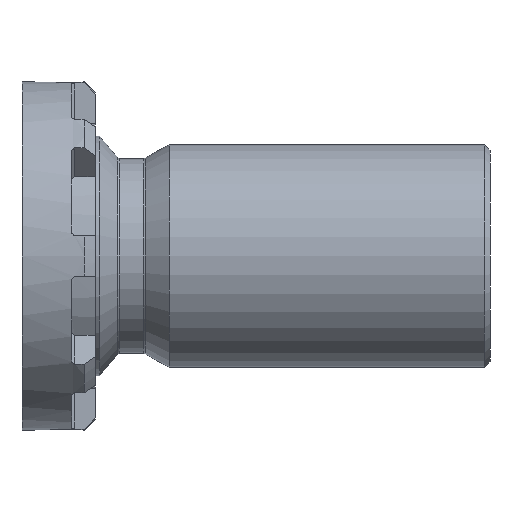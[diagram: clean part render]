
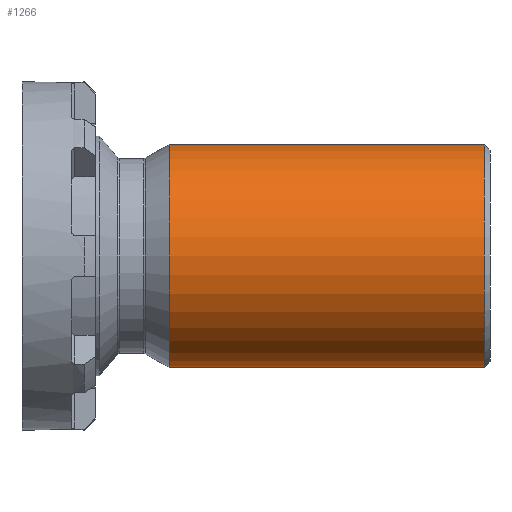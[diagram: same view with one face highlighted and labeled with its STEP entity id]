
A CAD part, left-side view. The second image highlights one B-rep face of the part: STEP entity #1266.
In plain terms, the highlighted cylindrical face has radius 4 mm (diameter 8 mm), a full revolution.
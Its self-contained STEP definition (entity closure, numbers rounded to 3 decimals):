
#36=CYLINDRICAL_SURFACE('',#1434,4.);
#84=CIRCLE('',#1431,4.);
#85=CIRCLE('',#1432,4.);
#86=CIRCLE('',#1435,4.);
#173=FACE_OUTER_BOUND('',#242,.T.);
#242=EDGE_LOOP('',(#1069,#1070,#1071,#1072,#1073));
#333=LINE('',#2246,#420);
#420=VECTOR('',#1812,4.);
#573=VERTEX_POINT('',#2238);
#574=VERTEX_POINT('',#2240);
#575=VERTEX_POINT('',#2245);
#758=EDGE_CURVE('',#573,#574,#84,.T.);
#759=EDGE_CURVE('',#574,#573,#85,.T.);
#760=EDGE_CURVE('',#574,#575,#333,.T.);
#761=EDGE_CURVE('',#575,#575,#86,.T.);
#1069=ORIENTED_EDGE('',*,*,#758,.F.);
#1070=ORIENTED_EDGE('',*,*,#759,.F.);
#1071=ORIENTED_EDGE('',*,*,#760,.T.);
#1072=ORIENTED_EDGE('',*,*,#761,.T.);
#1073=ORIENTED_EDGE('',*,*,#760,.F.);
#1266=ADVANCED_FACE('',(#173),#36,.T.);
#1431=AXIS2_PLACEMENT_3D('',#2241,#1804,#1805);
#1432=AXIS2_PLACEMENT_3D('',#2242,#1806,#1807);
#1434=AXIS2_PLACEMENT_3D('',#2244,#1810,#1811);
#1435=AXIS2_PLACEMENT_3D('',#2247,#1813,#1814);
#1804=DIRECTION('center_axis',(0.,-1.,0.));
#1805=DIRECTION('ref_axis',(-1.,0.,0.));
#1806=DIRECTION('center_axis',(0.,-1.,0.));
#1807=DIRECTION('ref_axis',(-1.,0.,0.));
#1810=DIRECTION('center_axis',(0.,-1.,0.));
#1811=DIRECTION('ref_axis',(1.,0.,0.));
#1812=DIRECTION('',(0.,1.,0.));
#1813=DIRECTION('center_axis',(0.,-1.,0.));
#1814=DIRECTION('ref_axis',(1.,0.,0.));
#2238=CARTESIAN_POINT('',(4.,0.2,0.));
#2240=CARTESIAN_POINT('',(-4.,0.2,0.));
#2241=CARTESIAN_POINT('Origin',(0.,0.2,0.));
#2242=CARTESIAN_POINT('Origin',(0.,0.2,0.));
#2244=CARTESIAN_POINT('Origin',(0.,5.75,0.));
#2245=CARTESIAN_POINT('',(-4.,11.5,0.));
#2246=CARTESIAN_POINT('',(-4.,5.75,0.));
#2247=CARTESIAN_POINT('Origin',(0.,11.5,0.));
